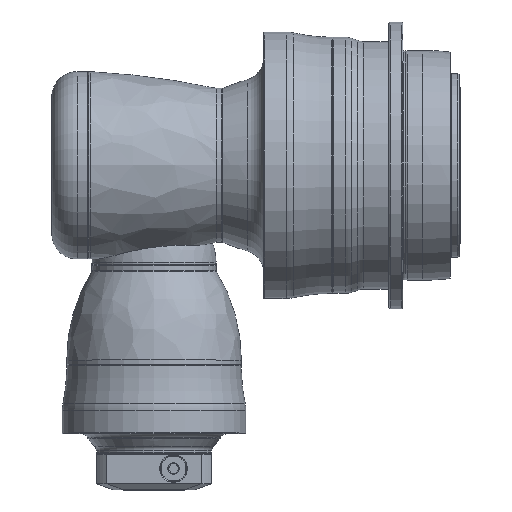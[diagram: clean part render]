
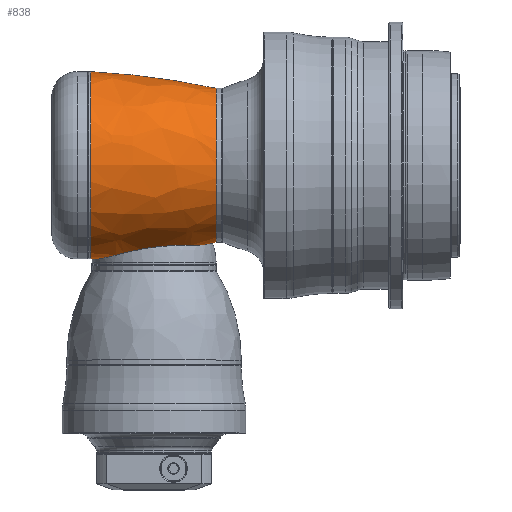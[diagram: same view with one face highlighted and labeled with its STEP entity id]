
A CAD part, top view. The second image highlights one B-rep face of the part: STEP entity #838.
In plain terms, the highlighted free-form (B-spline) face has degree [3, 3] with [7, 4] control points.
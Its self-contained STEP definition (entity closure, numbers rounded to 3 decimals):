
#133=CARTESIAN_POINT('',(-92.521,617.494,
0.));
#134=DIRECTION('',(0.,0.,-1.));
#135=DIRECTION('',(0.064,-0.998,0.));
#136=AXIS2_PLACEMENT_3D('',#133,#134,#135);
#138=CARTESIAN_POINT('',(-92.521,617.494,
0.));
#139=DIRECTION('',(0.,0.,-1.));
#140=DIRECTION('',(0.209,-0.978,0.));
#141=AXIS2_PLACEMENT_3D('',#138,#139,#140);
#148=CARTESIAN_POINT('',(-92.521,-617.494,
0.));
#149=DIRECTION('',(0.,0.,1.));
#150=DIRECTION('',(0.209,0.978,0.));
#151=AXIS2_PLACEMENT_3D('',#148,#149,#150);
#173=CARTESIAN_POINT('',(-55.,81.498,0.556));
#175=CARTESIAN_POINT('',(-55.,0.,0.));
#176=DIRECTION('',(1.,0.,0.));
#177=DIRECTION('',(0.,1.,0.007));
#178=AXIS2_PLACEMENT_3D('',#175,#176,#177);
#263=CARTESIAN_POINT('',(-54.763,81.487,
0.));
#264=CARTESIAN_POINT('',(-54.763,81.487,0.104));
#265=CARTESIAN_POINT('',(-54.805,81.489,0.311));
#266=CARTESIAN_POINT('',(-54.925,81.495,0.485));
#267=CARTESIAN_POINT('',(-55.,81.498,0.556));
#269=CARTESIAN_POINT('',(54.,0.,0.));
#270=DIRECTION('',(1.,0.,0.));
#271=DIRECTION('',(0.,1.,0.));
#272=AXIS2_PLACEMENT_3D('',#269,#270,#271);
#338=CARTESIAN_POINT('',(-47.703,-81.07,0.));
#339=CARTESIAN_POINT('',(-46.711,-81.006,1.883));
#340=CARTESIAN_POINT('',(-44.473,-80.728,5.573));
#341=CARTESIAN_POINT('',(-40.271,-79.881,10.825));
#342=CARTESIAN_POINT('',(-35.457,-78.725,15.432));
#343=CARTESIAN_POINT('',(-30.052,-77.36,19.386));
#344=CARTESIAN_POINT('',(-24.133,-75.891,22.612));
#345=CARTESIAN_POINT('',(-17.681,-74.404,25.078));
#346=CARTESIAN_POINT('',(-10.911,-73.028,26.68));
#347=CARTESIAN_POINT('',(-3.939,-71.853,27.373));
#348=CARTESIAN_POINT('',(2.54,-70.989,27.228));
#349=CARTESIAN_POINT('',(9.265,-70.327,26.29));
#350=CARTESIAN_POINT('',(15.865,-69.908,24.519));
#351=CARTESIAN_POINT('',(22.183,-69.694,21.955));
#352=CARTESIAN_POINT('',(27.994,-69.62,18.707));
#353=CARTESIAN_POINT('',(33.264,-69.595,14.827));
#354=CARTESIAN_POINT('',(37.917,-69.53,10.394));
#355=CARTESIAN_POINT('',(41.953,-69.326,5.394));
#356=CARTESIAN_POINT('',(44.113,-69.043,1.827));
#357=CARTESIAN_POINT('',(45.059,-68.853,
0.));
#452=CARTESIAN_POINT('',(54.,67.,0.));
#453=CARTESIAN_POINT('',(54.,-67.,0.));
#454=VERTEX_POINT('',#452);
#455=VERTEX_POINT('',#453);
#456=CARTESIAN_POINT('',(45.059,-68.853,
0.));
#457=VERTEX_POINT('',#456);
#458=CARTESIAN_POINT('',(-47.703,-81.07,
0.));
#459=CARTESIAN_POINT('',(-55.,-81.5,0.));
#460=VERTEX_POINT('',#458);
#461=VERTEX_POINT('',#459);
#502=VERTEX_POINT('',#173);
#507=VERTEX_POINT('',#263);
#798=CARTESIAN_POINT('',(-57.198,81.453,-5.125));
#799=CARTESIAN_POINT('',(-19.046,79.53,-5.004));
#800=CARTESIAN_POINT('',(18.822,74.502,-4.687));
#801=CARTESIAN_POINT('',(56.152,66.405,-4.178));
#802=CARTESIAN_POINT('',(-57.198,84.607,45.002));
#803=CARTESIAN_POINT('',(-19.046,82.609,43.939));
#804=CARTESIAN_POINT('',(18.822,77.387,41.161));
#805=CARTESIAN_POINT('',(56.152,68.976,36.687));
#806=CARTESIAN_POINT('',(-57.198,50.225,81.615));
#807=CARTESIAN_POINT('',(-19.046,49.039,79.687));
#808=CARTESIAN_POINT('',(18.822,45.939,74.649));
#809=CARTESIAN_POINT('',(56.152,40.946,66.536));
#810=CARTESIAN_POINT('',(-57.198,0.,
81.615));
#811=CARTESIAN_POINT('',(-19.046,0.,
79.687));
#812=CARTESIAN_POINT('',(18.822,0.,74.649));
#813=CARTESIAN_POINT('',(56.152,0.,66.536));
#814=CARTESIAN_POINT('',(-57.198,-50.225,81.615));
#815=CARTESIAN_POINT('',(-19.046,-49.039,79.687));
#816=CARTESIAN_POINT('',(18.822,-45.939,74.649));
#817=CARTESIAN_POINT('',(56.152,-40.946,66.536));
#818=CARTESIAN_POINT('',(-57.198,-84.607,45.002));
#819=CARTESIAN_POINT('',(-19.046,-82.609,43.939));
#820=CARTESIAN_POINT('',(18.822,-77.387,41.161));
#821=CARTESIAN_POINT('',(56.152,-68.976,36.687));
#822=CARTESIAN_POINT('',(-57.198,-81.453,
-5.125));
#823=CARTESIAN_POINT('',(-19.046,-79.53,
-5.004));
#824=CARTESIAN_POINT('',(18.822,-74.502,-4.687));
#825=CARTESIAN_POINT('',(56.152,-66.405,-4.178));
#826=(BOUNDED_SURFACE()B_SPLINE_SURFACE(3,3,((#798,#799,#800,#801),(#802,#803,
#804,#805),(#806,#807,#808,#809),(#810,#811,#812,#813),(#814,#815,#816,#817),(
#818,#819,#820,#821),(#822,#823,#824,#825)),.UNSPECIFIED.,.F.,.F.,.F.)B_SPLINE_SURFACE_WITH_KNOTS((4,3,4),(4,4),(0.,1.,2.),(0.,1.),.UNSPECIFIED.)GEOMETRIC_REPRESENTATION_ITEM()RATIONAL_B_SPLINE_SURFACE(((1.189,
1.187,1.187,1.189),(0.939,
0.937,0.937,0.939),(0.939,
0.937,0.937,0.939),(1.189,
1.187,1.187,1.189),(0.939,
0.937,0.937,0.939),(0.939,
0.937,0.937,0.939),(1.189,
1.187,1.187,1.189)))REPRESENTATION_ITEM('')SURFACE());
#827=ORIENTED_EDGE('',*,*,#664,.F.);
#828=ORIENTED_EDGE('',*,*,#645,.F.);
#830=ORIENTED_EDGE('',*,*,#829,.T.);
#831=ORIENTED_EDGE('',*,*,#641,.T.);
#833=ORIENTED_EDGE('',*,*,#832,.F.);
#834=ORIENTED_EDGE('',*,*,#634,.T.);
#835=ORIENTED_EDGE('',*,*,#677,.F.);
#836=EDGE_LOOP('',(#827,#828,#830,#831,#833,#834,#835));
#837=FACE_OUTER_BOUND('',#836,.F.);
#137=CIRCLE('',#136,700.);
#142=CIRCLE('',#141,700.);
#152=CIRCLE('',#151,700.);
#179=CIRCLE('',#178,81.5);
#268=B_SPLINE_CURVE_WITH_KNOTS('',3,(#263,#264,#265,#266,#267),.UNSPECIFIED.,
.F.,.F.,(4,1,4),(0.,0.5,1.),.UNSPECIFIED.);
#273=CIRCLE('',#272,67.);
#358=B_SPLINE_CURVE_WITH_KNOTS('',3,(#338,#339,#340,#341,#342,#343,#344,#345,
#346,#347,#348,#349,#350,#351,#352,#353,#354,#355,#356,#357),.UNSPECIFIED.,.F.,
.F.,(4,1,1,1,1,1,1,1,1,1,1,1,1,1,1,1,1,4),(0.,0.059,
0.118,0.176,0.235,0.294,
0.353,0.412,0.471,0.529,
0.588,0.647,0.706,0.765,
0.824,0.882,0.941,1.),.UNSPECIFIED.);
#634=EDGE_CURVE('',#460,#461,#137,.T.);
#641=EDGE_CURVE('',#455,#457,#142,.T.);
#645=EDGE_CURVE('',#454,#507,#152,.T.);
#664=EDGE_CURVE('',#507,#502,#268,.T.);
#677=EDGE_CURVE('',#502,#461,#179,.T.);
#829=EDGE_CURVE('',#454,#455,#273,.T.);
#832=EDGE_CURVE('',#460,#457,#358,.T.);
#838=ADVANCED_FACE('',(#837),#826,.T.);
